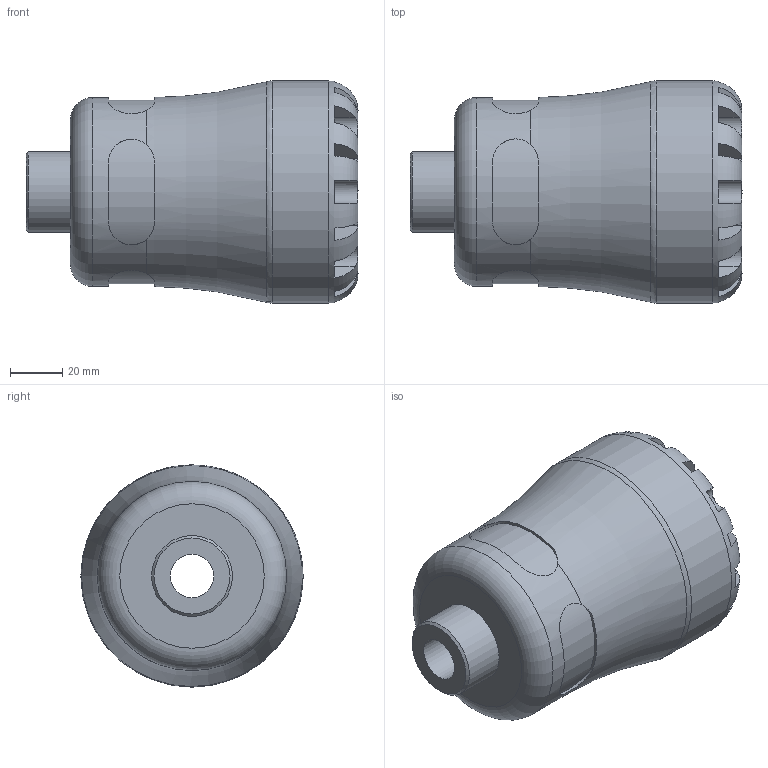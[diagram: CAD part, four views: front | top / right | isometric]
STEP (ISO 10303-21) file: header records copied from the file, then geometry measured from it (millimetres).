
FILE_DESCRIPTION(/* description */ ('PLASSON MALE INTEGRAL BRASS THREAD 50X1" SERIES 1'),/* implementation_level */ '2;1');
FILE_NAME(/* name */ 'C:\Dropbox\KIMPROJECTS-Inventor\99-16-3568-Processing\1072\107200050010_197200050010.ipt.stp',/* time_stamp */ '2017-01-22T10:49:05+02:00',/* author */ ('KIM'),/* organization */ (''),/* preprocessor_version */ 'ST-DEVELOPER v15.6',/* originating_system */ 'Autodesk Inventor 2015',/* authorisation */ '');
FILE_SCHEMA (('AUTOMOTIVE_DESIGN { 1 0 10303 214 3 1 1 }'));
Length unit declared in the file: millimetre
Products named in the file (1): 107200050010_197200050010
Bounding box: 127 x 85 x 85 mm (x, y, z)
Volume: 352360.4 mm3; surface area: 53709.1 mm2
Topology: 1 solids, 1 shells, 99 faces, 255 edges, 160 vertices
Faces by surface type: plane 60, cylinder 33, torus 4, cone 2
Full cylindrical faces by diameter (mm): 16.645 x1, 30.931 x1, 50 x1, 72.25 x1, 85 x1
Entity records: 3867 total; most frequent: CARTESIAN_POINT 1466, ORIENTED_EDGE 482, DIRECTION 458, EDGE_CURVE 241, AXIS2_PLACEMENT_3D 189, VERTEX_POINT 157, EDGE_LOOP 114, STYLED_ITEM 100
